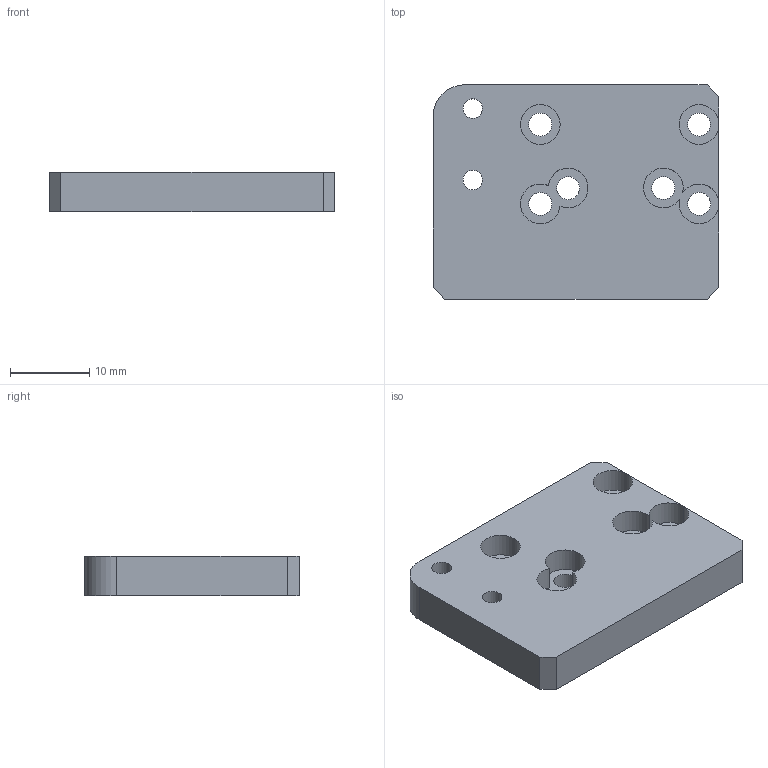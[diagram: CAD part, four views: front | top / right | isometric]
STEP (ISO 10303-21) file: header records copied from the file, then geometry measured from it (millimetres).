
FILE_DESCRIPTION(/* description */ (''),/* implementation_level */ '2;1');
FILE_NAME(/* name */ 'U:\KONSTRUKTORIAI\DOKUMENTACIJA\2\2CP\2CPMT18\2CPMT18-2\STEP\2CPMT18-2.01.stp',/* time_stamp */ '2020-06-01T14:31:55+03:00',/* author */ ('dsgn36'),/* organization */ (''),/* preprocessor_version */ 'ST-DEVELOPER v15.2',/* originating_system */ 'Autodesk Inventor 2014',/* authorisation */ '');
FILE_SCHEMA (('CONFIG_CONTROL_DESIGN'));
Length unit declared in the file: millimetre
Products named in the file (1): 2CPMT18-2.01
Bounding box: 36 x 27 x 5 mm (x, y, z)
Volume: 4351.8 mm3; surface area: 2885.5 mm2
Topology: 1 solids, 1 shells, 29 faces, 73 edges, 48 vertices
Faces by surface type: cylinder 16, plane 13
Full cylindrical faces by diameter (mm): 2.459 x2, 2.9 x6, 5 x2
Entity records: 877 total; most frequent: DIRECTION 154, CARTESIAN_POINT 138, ORIENTED_EDGE 128, EDGE_CURVE 62, AXIS2_PLACEMENT_3D 62, EDGE_LOOP 56, VERTEX_POINT 46, CIRCLE 32
